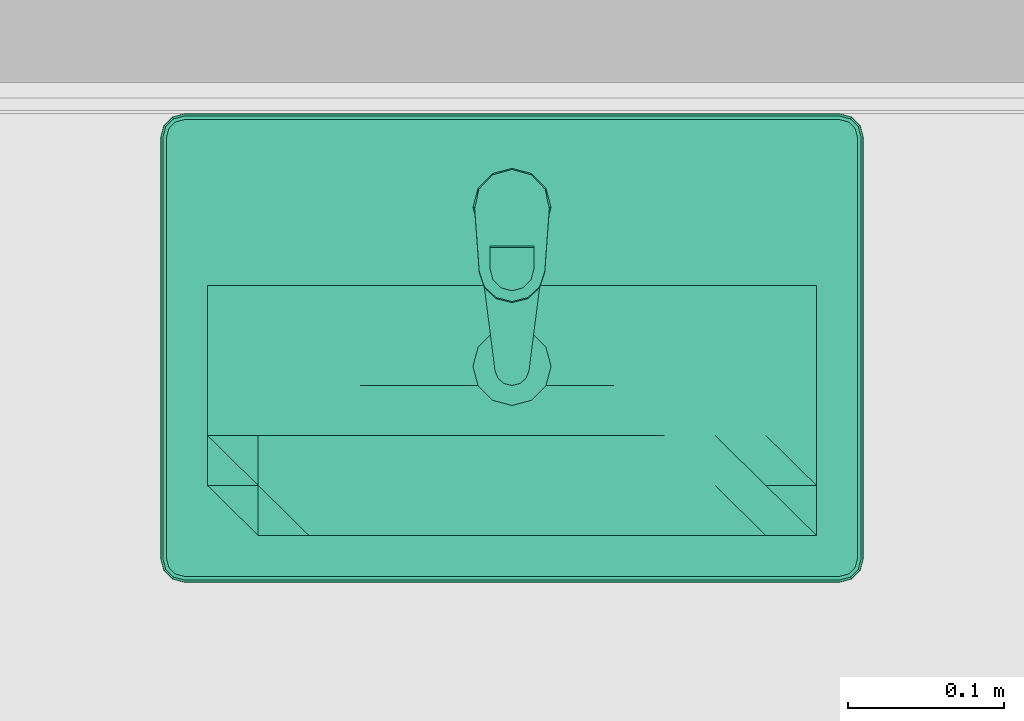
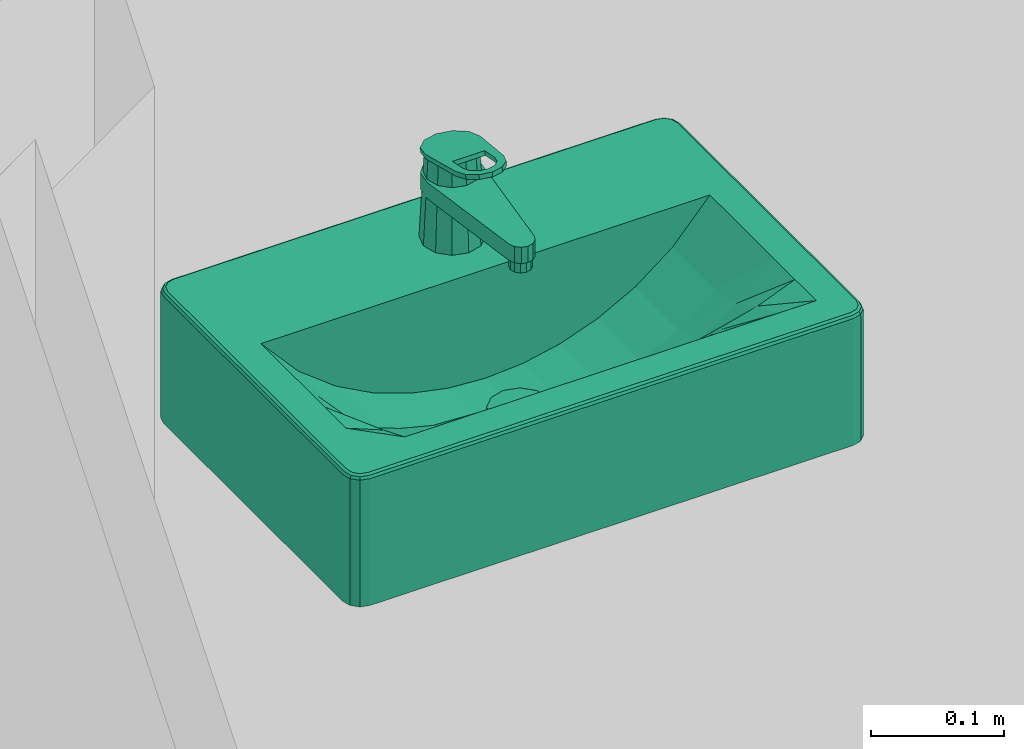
# One storey, part 311 of 347: 1 flow terminal.
"""IFC2X3 building model written with IfcOpenShell, lengths in millimetres."""

import ifcopenshell
import ifcopenshell.guid

model = None  # the IFC model being written
_history = None  # IfcOwnerHistory: only IFC2X3 demands one
_inside = {}  # id of a spatial element -> (the spatial element, [elements in it])
_under = {}  # id of a project, library or spatial element -> (it, [spatial elements below it])
_declared = {}  # id of a project -> (the project, [libraries it declares])
_typed = {}  # id of a type object -> (the type object, [elements of that type])
_made_of = {}  # id of a material, layer set ... -> (it, [elements and type objects made of it])


def new_model(schema):
    """Start an empty IFC model of exactly this schema.

    Asked for "IFC4X3", IfcOpenShell would pick the latest addendum, in which some entities
    have other attributes; the version numbers below select the first issue.
    IFC2X3 requires an IfcOwnerHistory on every rooted entity: one is made here for all.
    """
    global model, _history
    if schema == "IFC4X3":
        model = ifcopenshell.file(schema_version=(4, 3, 0, 0))
    else:
        model = ifcopenshell.file(schema=schema)
    _inside.clear()
    _under.clear()
    _declared.clear()
    _typed.clear()
    _made_of.clear()
    _history = None
    if model.schema == "IFC2X3":
        org = make("IfcOrganization", Name="unknown")
        user = make(
            "IfcPersonAndOrganization",
            ThePerson=make("IfcPerson", FamilyName="unknown"),
            TheOrganization=org,
        )
        app = make(
            "IfcApplication",
            ApplicationDeveloper=org,
            Version="unknown",
            ApplicationFullName="unknown",
            ApplicationIdentifier="unknown",
        )
        _history = make(
            "IfcOwnerHistory",
            OwningUser=user,
            OwningApplication=app,
            ChangeAction="ADDED",
            CreationDate=0,
        )
    return model


def make(cls, **values):
    """One entity of the class cls with the attributes given. An attribute that is None is left unset."""
    return model.create_entity(
        cls, **{name: value for name, value in values.items() if value is not None}
    )


def entity(cls, *values):
    """Any entity or typed value of the class cls, its attributes in the order of the schema. None: left unset."""
    e = model.create_entity(cls)
    for i, value in enumerate(values):
        if value is not None:
            e[i] = value
    return e


def rooted(cls, **values):
    """An entity with a GlobalId (a new one), such as an element, a storey or a relation."""
    return make(cls, GlobalId=ifcopenshell.guid.new(), OwnerHistory=_history, **values)


def si_unit(unit_type, name, prefix=None):
    """IfcSIUnit, for example si_unit("LENGTHUNIT", "METRE", prefix="MILLI")."""
    return make("IfcSIUnit", UnitType=unit_type, Prefix=prefix, Name=name)


def converted_unit(unit_type, name, factor, base, dimensions=None, offset=None):
    """IfcConversionBasedUnit, such as the inch: factor (a typed value) times the base unit."""
    return make(
        "IfcConversionBasedUnit"
        if offset is None
        else "IfcConversionBasedUnitWithOffset",
        ConversionOffset=offset,
        Dimensions=None
        if dimensions is None
        else entity("IfcDimensionalExponents", *dimensions),
        UnitType=unit_type,
        Name=name,
        ConversionFactor=make(
            "IfcMeasureWithUnit", ValueComponent=factor, UnitComponent=base
        ),
    )


def derived_unit(unit_type, elements):
    """IfcDerivedUnit: a product of units, each with its exponent."""
    return make(
        "IfcDerivedUnit",
        Elements=[
            make("IfcDerivedUnitElement", Unit=unit, Exponent=power)
            for unit, power in elements
        ],
        UnitType=unit_type,
    )


def money_unit(currency):
    """IfcMonetaryUnit."""
    return make("IfcMonetaryUnit", Currency=currency)


def assignment(units):
    """IfcUnitAssignment: the units of a project."""
    return None if units is None else make("IfcUnitAssignment", Units=units)


def point(xyz):
    """IfcCartesianPoint."""
    return None if xyz is None else make("IfcCartesianPoint", Coordinates=xyz)


def direction(xyz):
    """IfcDirection."""
    return None if xyz is None else make("IfcDirection", DirectionRatios=xyz)


def frame(location, z_axis=None, x_axis=None):
    """IfcAxis2Placement3D, a coordinate frame: its origin and axes. An axis left out is left unset."""
    return make(
        "IfcAxis2Placement3D",
        Location=point(location),
        Axis=direction(z_axis),
        RefDirection=direction(x_axis),
    )


def origin_with_axes():
    """The frame at (0, 0, 0) with the z axis (0, 0, 1) and the x axis (1, 0, 0) written out."""
    return frame((0.0, 0.0, 0.0), z_axis=(0.0, 0.0, 1.0), x_axis=(1.0, 0.0, 0.0))


def place(relative_to, where):
    """IfcLocalPlacement: puts the frame where relative to a parent placement (None: the world)."""
    return make(
        "IfcLocalPlacement", PlacementRelTo=relative_to, RelativePlacement=where
    )


def context(
    kind, dimensions, precision=None, world=None, true_north=None, identifier=None
):
    """IfcGeometricRepresentationContext, for example the 3D "Model" context."""
    return make(
        "IfcGeometricRepresentationContext",
        ContextIdentifier=identifier,
        ContextType=kind,
        CoordinateSpaceDimension=dimensions,
        Precision=precision,
        WorldCoordinateSystem=world,
        TrueNorth=true_north,
    )


def subcontext(parent, identifier, kind, view, scale=None):
    """IfcGeometricRepresentationSubContext, for example "Body" below "Model"."""
    return make(
        "IfcGeometricRepresentationSubContext",
        ContextIdentifier=identifier,
        ContextType=kind,
        ParentContext=parent,
        TargetScale=scale,
        TargetView=view,
    )


def project(units=None, contexts=None):
    """IfcProject with its units and contexts."""
    return rooted(
        "IfcProject",
        Name="project",
        RepresentationContexts=contexts,
        UnitsInContext=assignment(units),
    )


def spatial(cls, under=None, at=None, **own):
    """A site, building, storey or space (cls), placed at a placement, below another one or the project."""
    s = rooted(cls, ObjectPlacement=at, **own)
    if under is not None:
        _under.setdefault(under.id(), (under, []))[1].append(s)
    return s


def faces_of(points, faces, orient=None, outer=None):
    """IfcFace entities. A face is a list of loops; a loop is a list of indices into points, from 0.

    orient and outer hold one flag for each loop. By default every Orientation is true, the
    first loop of a face is its IfcFaceOuterBound and the others are IfcFaceBound.
    """
    made = []
    for i, loops in enumerate(faces):
        bounds = []
        for j, loop in enumerate(loops):
            is_outer = j == 0 if outer is None else outer[i][j]
            bounds.append(
                make(
                    "IfcFaceOuterBound" if is_outer else "IfcFaceBound",
                    Bound=make("IfcPolyLoop", Polygon=[points[k] for k in loop]),
                    Orientation=True if orient is None else orient[i][j],
                )
            )
        made.append(make("IfcFace", Bounds=bounds))
    return made


def open_shell(faces, orient=None, outer=None):
    """The faces of one IfcOpenShell. surface_model builds it on its shared points."""
    return ("IfcOpenShell", faces, orient, outer)


def faceted_brep(points, faces, orient=None, outer=None, voids=None):
    """IfcFacetedBrep: a solid bounded by flat faces; with voids (closed shells), ...WithVoids."""
    shared = [point(p) for p in points]
    hull = make("IfcClosedShell", CfsFaces=faces_of(shared, faces, orient, outer))
    if voids is None:
        return make("IfcFacetedBrep", Outer=hull)
    return make(
        "IfcFacetedBrepWithVoids",
        Outer=hull,
        Voids=[
            make(cls, CfsFaces=faces_of(shared, fs, o, b)) for cls, fs, o, b in voids
        ],
    )


def surface_model(cls, points, shells):
    """IfcFaceBasedSurfaceModel or IfcShellBasedSurfaceModel (cls): surfaces that need not close."""
    shared = [point(p) for p in points]
    made = [make(c, CfsFaces=faces_of(shared, fs, o, b)) for c, fs, o, b in shells]
    if cls == "IfcFaceBasedSurfaceModel":
        return make(cls, FbsmFaces=made)
    return make(cls, SbsmBoundary=made)


def shape(context_of_items, identifier, shape_type, items):
    """IfcShapeRepresentation: the items that make up one representation, for example the "Body"."""
    return make(
        "IfcShapeRepresentation",
        ContextOfItems=context_of_items,
        RepresentationIdentifier=identifier,
        RepresentationType=shape_type,
        Items=items,
    )


def made_of(thing, what):
    """Note that an element or type object is made of a material, layer set ...; save() writes the relation."""
    if what is not None:
        _made_of.setdefault(what.id(), (what, []))[1].append(thing)
    return thing


def type_object(cls, material=None, **own):
    """A type object (cls), such as IfcWallType, which elements share."""
    return made_of(rooted(cls, **own), material)


def element(
    cls,
    number,
    at=None,
    inside=None,
    cuts=None,
    type_object=None,
    material=None,
    context=None,
    identifier="Body",
    shape_type=None,
    held_by="IfcProductDefinitionShape",
    body=None,
    shapes=None,
    **own,
):
    """One element of the class cls, such as IfcWall. Its Tag is "e" and its number.

    at: its placement. inside: the storey or other place that contains it. cuts: it is an
    opening in that element (IfcRelVoidsElement). A single representation is given by context,
    identifier, shape_type and body (its items); several are given by shapes. held_by: the class
    of the entity that holds the representations. save() writes the other relations.
    """
    e = rooted(cls, Tag="e%d" % number, ObjectPlacement=at, **own)
    if body is not None:
        shapes = [shape(context, identifier, shape_type, body)]
    if shapes is not None:
        e.Representation = make(held_by, Representations=shapes)
    if inside is not None:
        _inside.setdefault(inside.id(), (inside, []))[1].append(e)
    if cuts is not None:
        rooted(
            "IfcRelVoidsElement", RelatingBuildingElement=cuts, RelatedOpeningElement=e
        )
    if type_object is not None:
        _typed.setdefault(type_object.id(), (type_object, []))[1].append(e)
    return made_of(e, material)


def aggregate(whole, parts):
    """IfcRelAggregates: a whole, such as a stair, and the parts it consists of."""
    return rooted("IfcRelAggregates", RelatingObject=whole, RelatedObjects=parts)


def save(model, path):
    """Write the relations noted so far, then the file.

    IfcRelAggregates (storeys below a building ...), IfcRelContainedInSpatialStructure (elements
    in a storey), IfcRelDefinesByType, IfcRelAssociatesMaterial and IfcRelDeclares: one each for
    every whole, place, type object, material and project.
    """
    for whole, parts in _under.values():
        aggregate(whole, parts)
    for where, things in _inside.values():
        rooted(
            "IfcRelContainedInSpatialStructure",
            RelatedElements=things,
            RelatingStructure=where,
        )
    for kind, things in _typed.values():
        rooted("IfcRelDefinesByType", RelatedObjects=things, RelatingType=kind)
    for what, things in _made_of.values():
        rooted("IfcRelAssociatesMaterial", RelatedObjects=things, RelatingMaterial=what)
    for by, libraries in _declared.values():
        rooted("IfcRelDeclares", RelatingContext=by, RelatedDefinitions=libraries)
    model.write(path)


model = new_model("IFC2X3")

# Units and contexts
model_context = context("Model", 3, precision=0.01, world=origin_with_axes(), true_north=direction((0.0, 1.0)))
plan_context = context("Plan", 3, precision=0.01, world=origin_with_axes(), true_north=direction((0.0, 1.0)))
body_context = subcontext(model_context, "Body", "Model", "MODEL_VIEW")
ifc_project = project(units=[si_unit("LENGTHUNIT", "METRE", prefix="MILLI"), si_unit("AREAUNIT", "SQUARE_METRE"), si_unit("VOLUMEUNIT", "CUBIC_METRE"), converted_unit("PLANEANGLEUNIT", "DEGREE", entity("IfcPlaneAngleMeasure", 0.0174532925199), si_unit("PLANEANGLEUNIT", "RADIAN"), dimensions=[0, 0, 0, 0, 0, 0, 0]), money_unit("EUR"), converted_unit("TIMEUNIT", "Year", entity("IfcTimeMeasure", 31556926.0), si_unit("TIMEUNIT", "SECOND"), dimensions=[0, 0, 1, 0, 0, 0, 0]), si_unit("MASSUNIT", "GRAM", prefix="KILO"), si_unit("THERMODYNAMICTEMPERATUREUNIT", "DEGREE_CELSIUS"), si_unit("LUMINOUSINTENSITYUNIT", "LUMEN"), si_unit("ENERGYUNIT", "JOULE", prefix="MEGA"), derived_unit("THERMALCONDUCTANCEUNIT", [(si_unit("POWERUNIT", "WATT"), 1), (si_unit("LENGTHUNIT", "METRE"), -1), (si_unit("THERMODYNAMICTEMPERATUREUNIT", "KELVIN"), -1)]), derived_unit("SPECIFICHEATCAPACITYUNIT", [(si_unit("ENERGYUNIT", "JOULE"), 1), (si_unit("MASSUNIT", "GRAM", prefix="KILO"), -1), (si_unit("THERMODYNAMICTEMPERATUREUNIT", "KELVIN"), -1)]), derived_unit("MASSDENSITYUNIT", [(si_unit("MASSUNIT", "GRAM", prefix="KILO"), 1), (si_unit("VOLUMEUNIT", "CUBIC_METRE"), -1)])], contexts=[model_context, plan_context])

# Site, building, storey
site_placement = place(None, origin_with_axes())
site = spatial("IfcSite", under=ifc_project, at=site_placement, Name="Site", CompositionType="ELEMENT")
building_placement = place(site_placement, origin_with_axes())
building = spatial("IfcBuilding", under=site, at=building_placement, Name="Naam gebouw", CompositionType="ELEMENT")
storey_placement = place(building_placement, origin_with_axes())
storey = spatial("IfcBuildingStorey", under=building, at=storey_placement, Name="begane grond", CompositionType="ELEMENT", Elevation=0.0)

# Flow terminal
sanitary_terminal_type = type_object("IfcSanitaryTerminalType", Name="Wasbak 25", PredefinedType="SANITARYFOUNTAIN")
flow_terminal_placement = place(storey_placement, frame((34300.0, 12042.5, 0.0), z_axis=(0.0, 0.0, 1.0), x_axis=(1.0, 0.0, 0.0)))
element("IfcFlowTerminal", 1, at=flow_terminal_placement, inside=storey, type_object=sanitary_terminal_type, Name="52_Sanitair wastafel", context=body_context, shape_type="SurfaceModel", body=[
    faceted_brep([(-210.0, -300.0, 780.0), (-217.5, -297.990381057, 780.0), (-222.990381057, -292.5, 780.0), (-225.0, -285.0, 780.0), (-225.0, -15.0, 780.0), (-222.990381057, -7.5, 780.0), (-217.5, -2.00961894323, 780.0), (-210.0, 0.0, 780.0), (210.0, 0.0, 780.0), (217.5, -2.00961894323, 780.0), (222.990381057, -7.5, 780.0), (225.0, -15.0, 780.0), (225.0, -285.0, 780.0), (222.990381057, -292.5, 780.0), (217.5, -297.990381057, 780.0), (210.0, -300.0, 780.0), (195.0, -270.0, 780.0), (195.0, -110.0, 780.0), (-195.0, -110.0, 780.0), (-195.0, -270.0, 780.0), (-210.000000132, -300.00000039, 895.0), (-217.50000043, -297.990381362, 895.0), (-222.990380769, -292.500000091, 895.0), (-224.999999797, -284.999999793, 895.0), (-224.999999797, -15.0000002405, 895.0), (-222.990380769, -7.49999994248, 895.0), (-217.50000043, -2.00961867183, 895.0), (-210.000000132, 3.55541707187e-07, 895.0), (209.999999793, 3.55541707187e-07, 895.0), (217.500000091, -2.00961867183, 895.0), (222.990381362, -7.49999994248, 895.0), (225.00000039, -15.0000002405, 895.0), (225.00000039, -284.999999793, 895.0), (222.990381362, -292.500000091, 895.0), (217.500000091, -297.990381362, 895.0), (209.999999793, -300.00000039, 895.0), (195.0, -110.0, 899.999999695), (195.0, -270.0, 899.999999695), (-195.0, -110.0, 899.999999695), (-195.0, -270.0, 899.999999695), (-209.977570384, -299.829629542, 896.294095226), (-217.411809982, -297.837631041, 896.294095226), (-222.837630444, -292.411809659, 896.294095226), (-224.829628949, -284.977570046, 896.294095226), (-224.829628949, -15.0224299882, 896.294095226), (-222.837630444, -7.58819037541, 896.294095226), (-217.411809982, -2.16236899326, 896.294095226), (-209.977570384, -0.170370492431, 896.294095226), (209.977570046, -0.170370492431, 896.294095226), (217.411809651, -2.16236899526, 896.294095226), (222.837631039, -7.58819038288, 896.294095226), (224.829629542, -15.0224299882, 896.294095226), (224.829629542, -284.977570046, 896.294095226), (222.837631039, -292.411809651, 896.294095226), (217.411809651, -297.837631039, 896.294095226), (209.977570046, -299.829629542, 896.294095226), (209.34173768, -4.99999679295, 899.999999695), (-209.341738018, -4.99999679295, 899.999999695), (-214.911811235, -6.49249341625, 899.999999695), (-218.507505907, -10.088188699, 899.999999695), (-220.000002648, -15.6582623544, 899.999999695), (-220.000002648, -284.34173768, 899.999999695), (-218.507505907, -289.911811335, 899.999999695), (-214.911811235, -293.507506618, 899.999999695), (-209.341738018, -295.000003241, 899.999999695), (209.34173768, -295.000003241, 899.999999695), (214.911811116, -293.507506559, 899.999999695), (218.507506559, -289.911811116, 899.999999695), (220.000003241, -284.34173768, 899.999999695), (220.000003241, -15.6582623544, 899.999999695), (218.507506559, -10.0881889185, 899.999999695), (214.911811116, -6.49249347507, 899.999999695), (-209.807199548, -298.535534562, 898.535533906), (-216.741937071, -296.677377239, 898.535533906), (-221.677376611, -291.741936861, 898.535533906), (-223.535533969, -284.807199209, 898.535533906), (-223.535533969, -15.1928008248, 898.535533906), (-221.677376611, -8.25806317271, 898.535533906), (-216.741937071, -3.32262279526, 898.535533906), (-209.807199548, -1.46446547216, 898.535533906), (209.807199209, -1.46446547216, 898.535533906), (216.741936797, -3.32262281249, 898.535533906), (221.677377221, -8.25806323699, 898.535533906), (223.535534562, -15.1928008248, 898.535533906), (223.535534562, -284.807199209, 898.535533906), (221.677377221, -291.741936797, 898.535533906), (216.741936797, -296.677377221, 898.535533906), (209.807199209, -298.535534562, 898.535533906), (209.512108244, -3.70590388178, 899.829629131), (-209.512108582, -3.70590388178, 899.829629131), (-215.581683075, -5.33224146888, 899.829629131), (-219.667757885, -9.41831697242, 899.829629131), (-221.294095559, -15.4878917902, 899.829629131), (-221.294095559, -284.512108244, 899.829629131), (-219.667757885, -290.581683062, 899.829629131), (-215.581683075, -294.667758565, 899.829629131), (-209.512108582, -296.294096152, 899.829629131), (209.512108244, -296.294096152, 899.829629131), (215.581682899, -294.667758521, 899.829629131), (219.667758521, -290.581682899, 899.829629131), (221.294096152, -284.512108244, 899.829629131), (221.294096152, -15.4878917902, 899.829629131), (219.667758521, -9.41831713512, 899.829629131), (215.581682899, -5.33224151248, 899.829629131)], [[[0, 1, 2, 3, 4, 5, 6, 7, 8, 9, 10, 11, 12, 13, 14, 15], [16, 17, 18, 19]], [[1, 0, 20, 21]], [[2, 1, 21, 22]], [[3, 2, 22, 23]], [[4, 3, 23, 24]], [[5, 4, 24, 25]], [[6, 5, 25, 26]], [[7, 6, 26, 27]], [[8, 7, 27, 28]], [[9, 8, 28, 29]], [[10, 9, 29, 30]], [[11, 10, 30, 31]], [[12, 11, 31, 32]], [[13, 12, 32, 33]], [[14, 13, 33, 34]], [[15, 14, 34, 35]], [[0, 15, 35, 20]], [[36, 17, 16, 37]], [[38, 18, 17, 36]], [[39, 19, 18, 38]], [[37, 16, 19, 39]], [[21, 20, 40, 41]], [[22, 21, 41, 42]], [[23, 22, 42, 43]], [[24, 23, 43, 44]], [[25, 24, 44, 45]], [[26, 25, 45, 46]], [[27, 26, 46, 47]], [[28, 27, 47, 48]], [[29, 28, 48, 49]], [[30, 29, 49, 50]], [[31, 30, 50, 51]], [[32, 31, 51, 52]], [[33, 32, 52, 53]], [[34, 33, 53, 54]], [[35, 34, 54, 55]], [[20, 35, 55, 40]], [[56, 57, 58, 59, 60, 61, 62, 63, 64, 65, 66, 67, 68, 69, 70, 71], [37, 39, 38, 36]], [[41, 40, 72, 73]], [[42, 41, 73, 74]], [[43, 42, 74, 75]], [[44, 43, 75, 76]], [[45, 44, 76, 77]], [[46, 45, 77, 78]], [[47, 46, 78, 79]], [[48, 47, 79, 80]], [[49, 48, 80, 81]], [[50, 49, 81, 82]], [[51, 50, 82, 83]], [[52, 51, 83, 84]], [[53, 52, 84, 85]], [[54, 53, 85, 86]], [[55, 54, 86, 87]], [[40, 55, 87, 72]], [[88, 89, 57, 56]], [[89, 90, 58, 57]], [[90, 91, 59, 58]], [[91, 92, 60, 59]], [[92, 93, 61, 60]], [[93, 94, 62, 61]], [[94, 95, 63, 62]], [[95, 96, 64, 63]], [[96, 97, 65, 64]], [[97, 98, 66, 65]], [[98, 99, 67, 66]], [[99, 100, 68, 67]], [[100, 101, 69, 68]], [[101, 102, 70, 69]], [[102, 103, 71, 70]], [[103, 88, 56, 71]], [[73, 72, 96, 95]], [[74, 73, 95, 94]], [[75, 74, 94, 93]], [[76, 75, 93, 92]], [[77, 76, 92, 91]], [[78, 77, 91, 90]], [[79, 78, 90, 89]], [[80, 79, 89, 88]], [[81, 80, 88, 103]], [[82, 81, 103, 102]], [[83, 82, 102, 101]], [[84, 83, 101, 100]], [[85, 84, 100, 99]], [[86, 85, 99, 98]], [[87, 86, 98, 97]], [[72, 87, 97, 96]]]),
    faceted_brep([(195.0, -270.0, 780.0), (-195.0, -270.0, 780.0), (-195.0, -110.0, 780.0), (195.0, -110.0, 780.0), (-12.5, -183.463635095, 780.0), (0.0, -186.813, 780.0), (12.5, -183.463635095, 780.0), (21.6506350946, -174.313, 780.0), (25.0, -161.813, 780.0), (21.6506350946, -149.313, 780.0), (12.5, -140.162364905, 780.0), (0.0, -136.813, 780.0), (-12.5, -140.162364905, 780.0), (-21.6506350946, -149.313, 780.0), (-25.0, -161.813, 780.0), (-21.6506350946, -174.313, 780.0), (97.5, -270.0, 900.0), (65.0, -270.0, 900.0), (32.5, -270.0, 900.0), (0.0, -270.0, 900.0), (-32.5, -270.0, 900.0), (-65.0, -270.0, 900.0), (-97.5, -270.0, 900.0), (-130.0, -270.0, 900.0), (-162.5, -270.0, 900.0), (-195.0, -270.0, 900.0), (195.0, -270.0, 900.0), (162.5, -270.0, 900.0), (130.0, -270.0, 900.0), (-195.0, -174.0, 900.0), (-195.0, -142.0, 900.0), (-195.0, -110.0, 900.0), (-195.0, -238.0, 900.0), (-195.0, -206.0, 900.0), (-97.5, -110.0, 820.685337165), (-65.0, -110.0, 808.964848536), (-32.5, -110.0, 802.209541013), (0.0, -110.0, 800.0), (32.5, -110.0, 802.209541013), (65.0, -110.0, 808.964848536), (97.5, -110.0, 820.685337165), (130.0, -110.0, 838.233901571), (162.5, -110.0, 863.337654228), (195.0, -110.0, 900.0), (-162.5, -110.0, 863.337654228), (-130.0, -110.0, 838.233901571), (195.0, -206.0, 900.0), (195.0, -238.0, 900.0), (195.0, -142.0, 900.0), (195.0, -174.0, 900.0), (0.0, -186.813, 805.617655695), (-12.5, -183.463635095, 804.999003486), (10.2294127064, -184.072037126, 805.04764786), (12.5, -183.463635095, 804.939121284), (21.6506350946, -174.313, 801.607186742), (21.7345031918, -174.0, 801.477639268), (25.0, -161.813, 801.699646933), (21.6506350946, -149.313, 801.471937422), (12.5, -140.162364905, 800.849823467), (14.3376350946, -142.0, 800.974756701), (0.0, -136.813, 800.0), (-12.5, -140.162364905, 800.849823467), (-21.6506350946, -149.313, 801.471937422), (-14.3376350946, -142.0, 800.974756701), (-25.0, -161.813, 801.699646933), (-21.7345031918, -174.0, 801.477639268), (-21.6506350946, -174.313, 801.609167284), (65.0, -238.0, 863.048407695), (32.5, -238.0, 859.730275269), (0.0, -238.0, 858.629325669), (-32.5, -238.0, 859.730275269), (-65.0, -238.0, 863.048407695), (-97.5, -238.0, 868.630654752), (-130.0, -238.0, 876.559022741), (-162.5, -238.0, 886.956973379), (162.5, -238.0, 886.956973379), (130.0, -238.0, 876.559022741), (97.5, -238.0, 868.630654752), (-162.5, -174.0, 863.337654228), (-162.5, -142.0, 863.337654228), (-162.5, -206.0, 869.931060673), (-97.5, -142.0, 820.685337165), (-65.0, -142.0, 808.964848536), (-32.5, -142.0, 802.209541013), (32.5, -142.0, 802.209541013), (65.0, -142.0, 808.964848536), (97.5, -142.0, 820.685337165), (130.0, -142.0, 838.233901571), (162.5, -142.0, 863.337654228), (-130.0, -142.0, 838.233901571), (162.5, -206.0, 869.931060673), (162.5, -174.0, 863.337654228), (-32.5, -174.0, 802.209541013), (0.0, -206.0, 814.029890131), (32.5, -206.0, 816.036947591), (32.5, -174.0, 802.209541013), (-130.0, -174.0, 838.233901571), (-97.5, -174.0, 820.685337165), (-65.0, -174.0, 808.964848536), (65.0, -174.0, 808.964848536), (97.5, -174.0, 820.685337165), (130.0, -174.0, 838.233901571), (-32.5, -206.0, 816.036947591), (65.0, -206.0, 822.152509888), (-65.0, -206.0, 822.152509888), (-97.5, -206.0, 832.683441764), (-130.0, -206.0, 848.235620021), (130.0, -206.0, 848.235620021), (97.5, -206.0, 832.683441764)], [[[0, 1, 2, 3], [4, 5, 6, 7, 8, 9, 10, 11, 12, 13, 14, 15]], [[16, 17, 18, 19, 20, 21, 22, 23, 24, 25, 1, 0, 26, 27, 28]], [[29, 30, 31, 2, 1, 25, 32, 33]], [[34, 35, 36, 37, 38, 39, 40, 41, 42, 43, 3, 2, 31, 44, 45]], [[46, 47, 26, 0, 3, 43, 48, 49]], [[50, 5, 4, 51]], [[52, 53, 6, 5, 50]], [[54, 7, 6, 53]], [[55, 56, 8, 7, 54]], [[57, 9, 8, 56]], [[58, 10, 9, 57, 59]], [[60, 11, 10, 58]], [[61, 12, 11, 60]], [[62, 13, 12, 61, 63]], [[64, 14, 13, 62]], [[65, 66, 15, 14, 64]], [[51, 4, 15, 66]], [[16, 67, 17]], [[17, 68, 18]], [[18, 69, 19]], [[19, 70, 20]], [[20, 71, 21]], [[21, 72, 22]], [[22, 73, 23]], [[23, 74, 24]], [[24, 32, 25]], [[26, 75, 27]], [[27, 76, 28]], [[28, 77, 16]], [[29, 78, 79, 30]], [[30, 79, 44, 31]], [[74, 33, 32]], [[80, 29, 33]], [[81, 82, 35, 34]], [[82, 83, 36, 35]], [[61, 60, 37, 36, 83, 63]], [[58, 59, 84, 38, 37, 60]], [[84, 85, 39, 38]], [[85, 86, 40, 39]], [[86, 87, 41, 40]], [[87, 88, 42, 41]], [[88, 48, 43, 42]], [[79, 89, 45, 44]], [[89, 81, 34, 45]], [[47, 46, 90]], [[26, 47, 75]], [[91, 49, 48, 88]], [[46, 49, 91]], [[51, 66, 65, 92, 93, 50]], [[54, 53, 52, 94, 95, 55]], [[50, 93, 94, 52]], [[57, 56, 55, 95, 84, 59]], [[63, 83, 92, 65, 64, 62]], [[16, 77, 67]], [[17, 67, 68]], [[18, 68, 69]], [[19, 69, 70]], [[20, 70, 71]], [[21, 71, 72]], [[22, 72, 73]], [[23, 73, 74]], [[24, 74, 32]], [[27, 75, 76]], [[28, 76, 77]], [[80, 78, 29]], [[78, 96, 89, 79]], [[74, 80, 33]], [[97, 98, 82, 81]], [[98, 92, 83, 82]], [[95, 99, 85, 84]], [[99, 100, 86, 85]], [[100, 101, 87, 86]], [[101, 91, 88, 87]], [[96, 97, 81, 89]], [[46, 91, 90]], [[47, 90, 75]], [[93, 92, 102]], [[103, 95, 94]], [[68, 94, 93]], [[77, 103, 67]], [[67, 94, 68]], [[68, 93, 69]], [[69, 102, 70]], [[70, 104, 71]], [[71, 105, 72]], [[72, 106, 73]], [[73, 80, 74]], [[75, 107, 76]], [[76, 108, 77]], [[106, 78, 80]], [[106, 96, 78]], [[104, 98, 97]], [[102, 92, 98]], [[103, 99, 95]], [[108, 100, 99]], [[107, 101, 100]], [[90, 91, 101]], [[105, 97, 96]], [[75, 90, 107]], [[69, 93, 102]], [[67, 103, 94]], [[77, 108, 103]], [[70, 102, 104]], [[71, 104, 105]], [[72, 105, 106]], [[73, 106, 80]], [[76, 107, 108]], [[105, 96, 106]], [[102, 98, 104]], [[104, 97, 105]], [[108, 99, 103]], [[107, 100, 108]], [[90, 101, 107]]]),
    faceted_brep([(-21.6506350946, -174.313, 800.0), (-25.0, -161.813, 800.0), (-21.6506350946, -149.313, 800.0), (-12.5, -140.162364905, 800.0), (0.0, -136.813, 800.0), (12.5, -140.162364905, 800.0), (21.6506350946, -149.313, 800.0), (25.0, -161.813, 800.0), (21.6506350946, -174.313, 800.0), (12.5, -183.463635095, 800.0), (0.0, -186.813, 800.0), (-12.5, -183.463635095, 800.0), (-21.6506350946, -174.313, 805.0), (-25.0, -161.813, 805.0), (-21.6506350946, -149.313, 805.0), (-12.5, -140.162364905, 805.0), (0.0, -136.813, 805.0), (12.5, -140.162364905, 805.0), (21.6506350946, -149.313, 805.0), (25.0, -161.813, 805.0), (21.6506350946, -174.313, 805.0), (12.5, -183.463635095, 805.0), (0.0, -186.813, 805.0), (-12.5, -183.463635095, 805.0)], [[[0, 1, 2, 3, 4, 5, 6, 7, 8, 9, 10, 11]], [[0, 12, 13, 1]], [[1, 13, 14, 2]], [[2, 14, 15, 3]], [[3, 15, 16, 4]], [[4, 16, 17, 5]], [[5, 17, 18, 6]], [[6, 18, 19, 7]], [[7, 19, 20, 8]], [[8, 20, 21, 9]], [[9, 21, 22, 10]], [[10, 22, 23, 11]], [[11, 23, 12, 0]], [[12, 23, 22, 21, 20, 19, 18, 17, 16, 15, 14, 13]]]),
    surface_model("IfcShellBasedSurfaceModel", [(0.0, -161.813, 807.0), (6.31095278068, -150.88210914, 806.49757372), (0.0, -149.191094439, 806.49757372), (10.9308908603, -155.502047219, 806.49757372), (12.5, -140.162364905, 805.0), (0.0, -136.813, 805.0), (-6.31095278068, -150.88210914, 806.49757372), (12.6219055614, -161.813, 806.49757372), (21.6506350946, -149.313, 805.0), (-12.5, -140.162364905, 805.0), (-10.9308908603, -155.502047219, 806.49757372), (10.9308908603, -168.123952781, 806.49757372), (25.0, -161.813, 805.0), (-21.6506350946, -149.313, 805.0), (-12.6219055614, -161.813, 806.49757372), (6.31095278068, -172.74389086, 806.49757372), (21.6506350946, -174.313, 805.0), (-25.0, -161.813, 805.0), (-10.9308908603, -168.123952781, 806.49757372), (0.0, -174.434905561, 806.49757372), (12.5, -183.463635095, 805.0), (-21.6506350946, -174.313, 805.0), (-6.31095278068, -172.74389086, 806.49757372), (0.0, -186.813, 805.0), (-12.5, -183.463635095, 805.0)], [open_shell([[[0, 1, 2]], [[0, 3, 1]], [[1, 4, 5, 2]], [[0, 2, 6]], [[0, 7, 3]], [[3, 8, 4, 1]], [[2, 5, 9, 6]], [[0, 6, 10]], [[0, 11, 7]], [[7, 12, 8, 3]], [[6, 9, 13, 10]], [[0, 10, 14]], [[0, 15, 11]], [[11, 16, 12, 7]], [[10, 13, 17, 14]], [[0, 14, 18]], [[0, 19, 15]], [[15, 20, 16, 11]], [[14, 17, 21, 18]], [[0, 18, 22]], [[0, 22, 19]], [[19, 23, 20, 15]], [[18, 21, 24, 22]], [[22, 24, 23, 19]]])]),
    faceted_brep([(-12.5, -38.3493649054, 900.0), (-10.5873227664, -41.6622190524, 976.507089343), (0.0, -38.7980769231, 975.961538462), (0.0, -35.0, 900.0), (-21.6506350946, -47.5, 900.0), (-18.2735503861, -49.4497607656, 977.990430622), (-21.0, -60.0, 980.0), (-18.1003413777, -70.4502369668, 981.990521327), (-10.4141059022, -78.037760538, 983.435763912), (0.0, -80.8018867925, 983.962264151), (10.4141059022, -78.037760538, 983.435763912), (18.1003413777, -70.4502369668, 981.990521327), (21.0, -60.0, 980.0), (18.2735503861, -49.4497607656, 977.990430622), (10.5873227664, -41.6622190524, 976.507089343), (12.5, -38.3493649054, 900.0), (21.6506350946, -47.5, 900.0), (25.0, -60.0, 900.0), (21.6506350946, -72.5, 900.0), (12.5, -81.6506350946, 900.0), (0.0, -85.0, 900.0), (-12.5, -81.6506350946, 900.0), (-21.6506350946, -72.5, 900.0), (-25.0, -60.0, 900.0)], [[[0, 1, 2, 3]], [[4, 5, 1, 0]], [[1, 5, 6, 7, 8, 9, 10, 11, 12, 13, 14, 2]], [[3, 2, 14, 15]], [[0, 3, 15, 16, 17, 18, 19, 20, 21, 22, 23, 4]], [[23, 6, 5, 4]], [[22, 7, 6, 23]], [[21, 8, 7, 22]], [[20, 9, 8, 21]], [[19, 10, 9, 20]], [[18, 11, 10, 19]], [[17, 12, 11, 18]], [[16, 13, 12, 17]], [[15, 14, 13, 16]]]),
    faceted_brep([(-9.0, -163.0, 935.0), (-9.0, -163.0, 945.0), (-7.79422863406, -158.5, 945.0), (-7.79422863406, -158.5, 935.0), (-7.79422863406, -167.5, 935.0), (-7.79422863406, -167.5, 945.0), (-4.5, -170.794228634, 945.0), (0.0, -172.0, 945.0), (4.5, -170.794228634, 945.0), (7.79422863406, -167.5, 945.0), (9.0, -163.0, 945.0), (7.79422863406, -158.5, 945.0), (4.5, -155.205771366, 945.0), (0.0, -154.0, 945.0), (-4.5, -155.205771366, 945.0), (-4.5, -155.205771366, 935.0), (0.0, -154.0, 935.0), (4.5, -155.205771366, 935.0), (7.79422863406, -158.5, 935.0), (9.0, -163.0, 935.0), (7.79422863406, -167.5, 935.0), (4.5, -170.794228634, 935.0), (0.0, -172.0, 935.0), (-4.5, -170.794228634, 935.0)], [[[0, 1, 2, 3]], [[4, 5, 1, 0]], [[1, 5, 6, 7, 8, 9, 10, 11, 12, 13, 14, 2]], [[3, 2, 14, 15]], [[0, 3, 15, 16, 17, 18, 19, 20, 21, 22, 23, 4]], [[23, 6, 5, 4]], [[22, 7, 6, 23]], [[21, 8, 7, 22]], [[20, 9, 8, 21]], [[19, 10, 9, 20]], [[18, 11, 10, 19]], [[17, 12, 11, 18]], [[16, 13, 12, 17]], [[15, 14, 13, 16]]]),
    faceted_brep([(12.8717176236, -39.7436961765, 960.0), (-1.01998896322e-06, -36.000021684, 960.0), (-12.8717193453, -39.7436972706, 960.0), (-21.7278061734, -49.806796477, 960.0), (-23.8053997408, -63.0499020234, 960.0), (-10.912, -164.3883, 960.0), (-9.02891689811, -169.283134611, 960.0), (-5.09338878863, -172.749692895, 960.0), (-3.62679860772e-05, -173.99996004, 960.0), (5.09332449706, -172.749726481, 960.0), (9.02887546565, -169.283194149, 960.0), (10.911990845, -164.388371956, 960.0), (23.8054, -63.0499, 960.0), (21.727805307, -49.8067946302, 960.0), (-11.0, -40.9474411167, 960.0), (0.0, -38.0, 960.0), (11.0, -40.9474411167, 960.0), (19.0525588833, -49.0, 960.0), (22.0, -60.0, 960.0), (19.0525588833, -71.0, 960.0), (11.0, -79.0525588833, 960.0), (0.0, -82.0, 960.0), (-11.0, -79.0525588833, 960.0), (-19.0525588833, -71.0, 960.0), (-22.0, -60.0, 960.0), (-19.0525588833, -49.0, 960.0), (12.8717176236, -39.7436961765, 945.0), (-1.01998896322e-06, -36.000021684, 945.0), (-12.8717193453, -39.7436972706, 945.0), (-21.7278061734, -49.806796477, 945.0), (-23.8053997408, -63.0499020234, 945.0), (-10.912, -164.3883, 945.0), (-9.02891689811, -169.283134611, 945.0), (-5.09338878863, -172.749692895, 945.0), (-3.62679860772e-05, -173.99996004, 945.0), (5.09332449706, -172.749726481, 945.0), (9.02887546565, -169.283194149, 945.0), (10.911990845, -164.388371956, 945.0), (23.8054, -63.0499, 945.0), (21.727805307, -49.8067946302, 945.0), (0.0, -37.25, 945.0), (-11.375, -40.2979220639, 945.0), (11.375, -40.2979220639, 945.0), (19.7020779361, -48.625, 945.0), (22.75, -60.0, 945.0), (19.7020779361, -71.375, 945.0), (11.375, -79.7020779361, 945.0), (0.0, -82.75, 945.0), (-11.375, -79.7020779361, 945.0), (-19.7020779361, -71.375, 945.0), (-22.75, -60.0, 945.0), (-19.7020779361, -48.625, 945.0)], [[[0, 1, 2, 3, 4, 5, 6, 7, 8, 9, 10, 11, 12, 13], [14, 15, 16, 17, 18, 19, 20, 21, 22, 23, 24, 25]], [[26, 27, 1, 0]], [[27, 28, 2, 1]], [[28, 29, 3, 2]], [[29, 30, 4, 3]], [[30, 31, 5, 4]], [[31, 32, 6, 5]], [[32, 33, 7, 6]], [[33, 34, 8, 7]], [[34, 35, 9, 8]], [[35, 36, 10, 9]], [[36, 37, 11, 10]], [[37, 38, 12, 11]], [[38, 39, 13, 12]], [[39, 26, 0, 13]], [[40, 15, 14, 41]], [[42, 16, 15, 40]], [[16, 42, 43, 17]], [[17, 43, 44, 18]], [[18, 44, 45, 19]], [[19, 45, 46, 20]], [[20, 46, 47, 21]], [[48, 22, 21, 47]], [[49, 23, 22, 48]], [[50, 24, 23, 49]], [[51, 25, 24, 50]], [[41, 14, 25, 51]], [[34, 33, 32, 31, 30, 29, 28, 27, 26, 39, 38, 37, 36, 35], [48, 47, 46, 45, 44, 43, 42, 40, 41, 51, 50, 49]]]),
    faceted_brep([(-23.893, -61.6925693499, 980.322394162), (-23.893, -60.9441209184, 984.251748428), (-21.2964214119, -48.4768327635, 981.877026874), (-21.2964214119, -49.225281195, 977.947672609), (-20.9459364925, -101.836702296, 987.968895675), (-20.9459364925, -101.088253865, 991.898249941), (-17.6631391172, -110.76591808, 993.741614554), (-10.0614352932, -117.71529766, 995.065305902), (0.000442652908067, -120.237163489, 995.545661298), (10.0622123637, -117.714880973, 995.065226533), (17.6636179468, -110.765186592, 993.741475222), (20.946, -101.087386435, 991.898084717), (23.893020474, -60.9438419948, 984.251695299), (21.2962910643, -48.4765841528, 981.87697952), (12.4716815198, -39.1603541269, 980.102459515), (-0.000142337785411, -35.7195870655, 979.447075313), (-12.4719245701, -39.1604997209, 980.102487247), (-14.0, -84.7923542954, 988.794269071), (14.0, -84.7923542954, 988.794269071), (14.0, -99.6079845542, 991.616293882), (12.124355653, -106.484354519, 992.926078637), (7.0, -111.518206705, 993.884907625), (0.0, -113.360724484, 994.235863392), (-7.0, -111.518206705, 993.884907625), (-12.124355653, -106.484354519, 992.926078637), (-14.0, -99.6079845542, 991.616293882), (-12.4719245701, -39.9089481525, 976.173132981), (-0.000142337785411, -36.4680354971, 975.517721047), (12.4716815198, -39.9088025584, 976.173105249), (21.2962910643, -49.2250325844, 977.947625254), (23.893020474, -61.6922904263, 980.322341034), (20.946, -101.835834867, 987.968730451), (17.6636179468, -111.513635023, 989.812120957), (10.0622123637, -118.463329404, 991.135872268), (0.000442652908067, -120.98561192, 991.616307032), (-10.0614352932, -118.463746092, 991.135951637), (-17.6631391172, -111.514366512, 989.812260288), (-14.0, -85.540802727, 984.864914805), (-14.0, -100.356432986, 987.686939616), (-12.124355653, -107.232802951, 988.996724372), (-7.0, -112.266655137, 989.955553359), (0.0, -114.109172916, 990.306509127), (7.0, -112.266655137, 989.955553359), (12.124355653, -107.232802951, 988.996724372), (14.0, -100.356432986, 987.686939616), (14.0, -85.540802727, 984.864914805)], [[[0, 1, 2, 3]], [[4, 5, 1, 0]], [[1, 5, 6, 7, 8, 9, 10, 11, 12, 13, 14, 15, 16, 2], [17, 18, 19, 20, 21, 22, 23, 24, 25]], [[3, 2, 16, 26]], [[0, 3, 26, 27, 28, 29, 30, 31, 32, 33, 34, 35, 36, 4], [37, 38, 39, 40, 41, 42, 43, 44, 45]], [[36, 6, 5, 4]], [[35, 7, 6, 36]], [[34, 8, 7, 35]], [[33, 9, 8, 34]], [[32, 10, 9, 33]], [[31, 11, 10, 32]], [[30, 12, 11, 31]], [[29, 13, 12, 30]], [[28, 14, 13, 29]], [[27, 15, 14, 28]], [[26, 16, 15, 27]], [[45, 18, 17, 37]], [[44, 19, 18, 45]], [[43, 20, 19, 44]], [[42, 21, 20, 43]], [[41, 22, 21, 42]], [[40, 23, 22, 41]], [[39, 24, 23, 40]], [[38, 25, 24, 39]], [[37, 17, 25, 38]]]),
    surface_model("IfcShellBasedSurfaceModel", [(0.0, -182.813, 780.0), (0.0, -182.813, 760.0), (5.43519994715, -182.097442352, 760.0), (5.43519994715, -182.097442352, 780.0), (-5.43519994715, -182.097442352, 780.0), (-5.43519994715, -182.097442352, 760.0), (10.5, -179.999533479, 760.0), (10.5, -179.999533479, 780.0), (-10.5, -179.999533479, 780.0), (-10.5, -179.999533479, 760.0), (14.8492424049, -176.662242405, 760.0), (14.8492424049, -176.662242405, 780.0), (-14.8492424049, -176.662242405, 780.0), (-14.8492424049, -176.662242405, 760.0), (18.1865334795, -172.313, 760.0), (18.1865334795, -172.313, 780.0), (-18.1865334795, -172.313, 780.0), (-18.1865334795, -172.313, 760.0), (20.2844423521, -167.248199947, 760.0), (20.2844423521, -167.248199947, 780.0), (-20.2844423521, -167.248199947, 780.0), (-20.2844423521, -167.248199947, 760.0), (21.0, -161.813, 760.0), (21.0, -161.813, 780.0), (-21.0, -161.813, 780.0), (-21.0, -161.813, 760.0), (20.2844423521, -156.377800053, 760.0), (20.2844423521, -156.377800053, 780.0), (-20.2844423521, -156.377800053, 780.0), (-20.2844423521, -156.377800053, 760.0), (18.1865334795, -151.313, 760.0), (18.1865334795, -151.313, 780.0), (-18.1865334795, -151.313, 780.0), (-18.1865334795, -151.313, 760.0), (14.8492424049, -146.963757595, 760.0), (14.8492424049, -146.963757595, 780.0), (-14.8492424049, -146.963757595, 780.0), (-14.8492424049, -146.963757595, 760.0), (10.5, -143.626466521, 760.0), (10.5, -143.626466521, 780.0), (-10.5, -143.626466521, 780.0), (-10.5, -143.626466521, 760.0), (5.43519994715, -141.528557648, 760.0), (5.43519994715, -141.528557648, 780.0), (-5.43519994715, -141.528557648, 780.0), (-5.43519994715, -141.528557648, 760.0), (0.0, -140.813, 760.0), (0.0, -140.813, 780.0)], [open_shell([[[0, 1, 2, 3]], [[4, 5, 1, 0]], [[3, 2, 6, 7]], [[8, 9, 5, 4]], [[7, 6, 10, 11]], [[12, 13, 9, 8]], [[11, 10, 14, 15]], [[16, 17, 13, 12]], [[15, 14, 18, 19]], [[20, 21, 17, 16]], [[19, 18, 22, 23]], [[24, 25, 21, 20]], [[23, 22, 26, 27]], [[28, 29, 25, 24]], [[27, 26, 30, 31]], [[32, 33, 29, 28]], [[31, 30, 34, 35]], [[36, 37, 33, 32]], [[35, 34, 38, 39]], [[40, 41, 37, 36]], [[39, 38, 42, 43]], [[44, 45, 41, 40]], [[43, 42, 46, 47]], [[47, 46, 45, 44]]])]),
])

save(model, "model.ifc")
